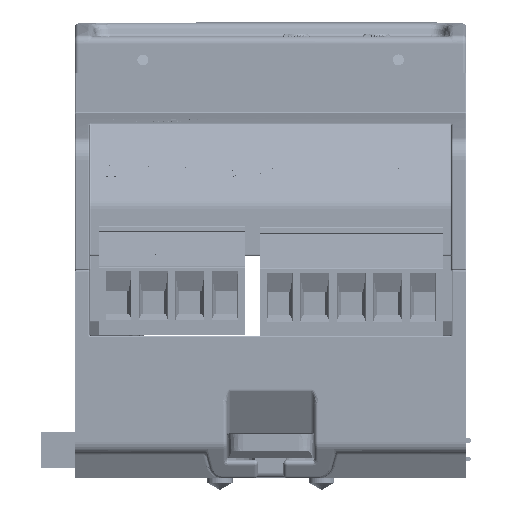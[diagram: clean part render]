
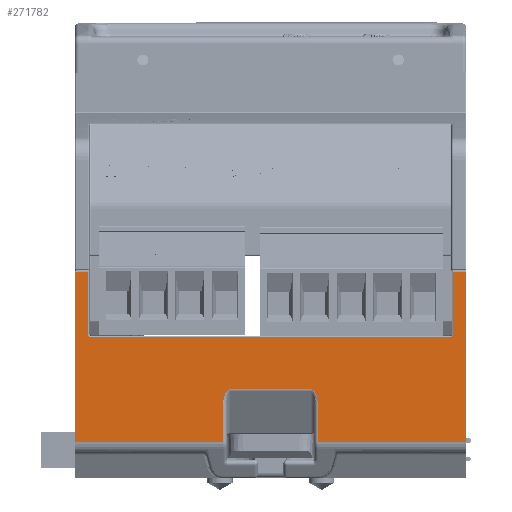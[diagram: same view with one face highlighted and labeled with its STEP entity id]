
A CAD part, front view. The second image highlights one B-rep face of the part: STEP entity #271782.
In plain terms, the highlighted planar face has unit normal (0, -1, 0).
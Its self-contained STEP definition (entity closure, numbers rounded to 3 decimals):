
#2768 = CARTESIAN_POINT ( 'NONE',  ( -25., -56., 0. ) ) ;
#4440 = EDGE_CURVE ( 'NONE', #201454, #41777, #177481, .T. ) ;
#4945 = CARTESIAN_POINT ( 'NONE',  ( -26.8, -56., -0.2 ) ) ;
#7142 = ORIENTED_EDGE ( 'NONE', *, *, #76550, .T. ) ;
#9804 = VERTEX_POINT ( 'NONE', #145446 ) ;
#15799 = CARTESIAN_POINT ( 'NONE',  ( -6.5, -56., -17.132 ) ) ;
#16784 = DIRECTION ( 'NONE',  ( 0., -1., 0. ) ) ;
#18787 = LINE ( 'NONE', #60000, #51401 ) ;
#19617 = ORIENTED_EDGE ( 'NONE', *, *, #231769, .T. ) ;
#24485 = DIRECTION ( 'NONE',  ( 0., -1., 0. ) ) ;
#30950 = CARTESIAN_POINT ( 'NONE',  ( -26.8, -56., -0.2 ) ) ;
#35280 = VERTEX_POINT ( 'NONE', #190024 ) ;
#39944 = LINE ( 'NONE', #163241, #206711 ) ;
#41489 = ORIENTED_EDGE ( 'NONE', *, *, #293359, .T. ) ;
#41777 = VERTEX_POINT ( 'NONE', #216508 ) ;
#45080 = ORIENTED_EDGE ( 'NONE', *, *, #125507, .F. ) ;
#48170 = EDGE_CURVE ( 'NONE', #35280, #196973, #130917, .T. ) ;
#51401 = VECTOR ( 'NONE', #85063, 1000. ) ;
#55870 = EDGE_CURVE ( 'NONE', #212189, #92963, #39944, .T. ) ;
#59032 = CARTESIAN_POINT ( 'NONE',  ( -5.5, -56., -16.304 ) ) ;
#60000 = CARTESIAN_POINT ( 'NONE',  ( 25., -56., 0. ) ) ;
#60025 = ORIENTED_EDGE ( 'NONE', *, *, #167213, .F. ) ;
#61849 = CARTESIAN_POINT ( 'NONE',  ( 6.086, -56., -16.304 ) ) ;
#62307 =( BOUNDED_CURVE ( )  B_SPLINE_CURVE ( 3, ( #261144, #61849, #319365, #138221 ),
 .UNSPECIFIED., .F., .F. ) 
 B_SPLINE_CURVE_WITH_KNOTS ( ( 4, 4 ),
 ( 0., 1.571 ),
 .UNSPECIFIED. ) 
 CURVE ( )  GEOMETRIC_REPRESENTATION_ITEM ( )  RATIONAL_B_SPLINE_CURVE ( ( 1., 0.805, 0.805, 1. ) ) 
 REPRESENTATION_ITEM ( '' )  );
#63412 = EDGE_CURVE ( 'NONE', #35280, #134893, #242842, .T. ) ;
#63873 = ORIENTED_EDGE ( 'NONE', *, *, #255497, .T. ) ;
#70207 = CARTESIAN_POINT ( 'NONE',  ( 5.5, -56., -16.304 ) ) ;
#74309 = VECTOR ( 'NONE', #110922, 1000. ) ;
#75944 = DIRECTION ( 'NONE',  ( 1., 0., 0. ) ) ;
#76550 = EDGE_CURVE ( 'NONE', #196973, #284781, #245461, .T. ) ;
#79460 = LINE ( 'NONE', #2768, #238523 ) ;
#79620 = EDGE_LOOP ( 'NONE', ( #63873, #266460, #163309, #214251, #7142, #291790, #274314, #216408, #183090, #183957, #19617, #155374, #269574, #45080, #41489, #60025 ) ) ;
#85063 = DIRECTION ( 'NONE',  ( 0., 0., -1. ) ) ;
#85602 = VERTEX_POINT ( 'NONE', #70207 ) ;
#92963 = VERTEX_POINT ( 'NONE', #167635 ) ;
#98364 = CARTESIAN_POINT ( 'NONE',  ( -25., -56., -8.8 ) ) ;
#102921 = DIRECTION ( 'NONE',  ( 0., 0., -1. ) ) ;
#106681 = DIRECTION ( 'NONE',  ( -1., 0., 0. ) ) ;
#108299 = VECTOR ( 'NONE', #112943, 1000. ) ;
#110922 = DIRECTION ( 'NONE',  ( 0., 0., 1. ) ) ;
#111817 = CARTESIAN_POINT ( 'NONE',  ( -5.5, -56., -16.304 ) ) ;
#112943 = DIRECTION ( 'NONE',  ( -1., 0., 0. ) ) ;
#118480 = VECTOR ( 'NONE', #214787, 1000. ) ;
#120589 = CARTESIAN_POINT ( 'NONE',  ( 26.8, -56., -0.2 ) ) ;
#122551 = CARTESIAN_POINT ( 'NONE',  ( -24.6, -56., -8.8 ) ) ;
#124860 = EDGE_CURVE ( 'NONE', #92963, #136943, #194649, .T. ) ;
#125507 = EDGE_CURVE ( 'NONE', #144577, #9804, #137248, .T. ) ;
#126843 = CARTESIAN_POINT ( 'NONE',  ( -6.5, -56., 0. ) ) ;
#130917 = LINE ( 'NONE', #256855, #330535 ) ;
#134371 = EDGE_CURVE ( 'NONE', #41777, #9804, #18787, .T. ) ;
#134893 = VERTEX_POINT ( 'NONE', #286247 ) ;
#136943 = VERTEX_POINT ( 'NONE', #303691 ) ;
#137248 = CIRCLE ( 'NONE', #320553, 0.4 ) ;
#138221 = CARTESIAN_POINT ( 'NONE',  ( 6.5, -56., -18.304 ) ) ;
#144577 = VERTEX_POINT ( 'NONE', #270663 ) ;
#145446 = CARTESIAN_POINT ( 'NONE',  ( 25., -56., -8.8 ) ) ;
#155374 = ORIENTED_EDGE ( 'NONE', *, *, #4440, .T. ) ;
#157292 = VECTOR ( 'NONE', #236908, 1000. ) ;
#158487 = DIRECTION ( 'NONE',  ( 0., 1., 0. ) ) ;
#160064 = CARTESIAN_POINT ( 'NONE',  ( -25., -56., -0.2 ) ) ;
#163241 = CARTESIAN_POINT ( 'NONE',  ( 6.5, -56., 0. ) ) ;
#163309 = ORIENTED_EDGE ( 'NONE', *, *, #63412, .F. ) ;
#163760 = VERTEX_POINT ( 'NONE', #219252 ) ;
#167213 = EDGE_CURVE ( 'NONE', #285580, #163760, #226601, .T. ) ;
#167635 = CARTESIAN_POINT ( 'NONE',  ( 6.5, -56., -23.574 ) ) ;
#177481 = LINE ( 'NONE', #30950, #157292 ) ;
#181383 = LINE ( 'NONE', #258051, #217889 ) ;
#183090 = ORIENTED_EDGE ( 'NONE', *, *, #55870, .T. ) ;
#183957 = ORIENTED_EDGE ( 'NONE', *, *, #124860, .T. ) ;
#190024 = CARTESIAN_POINT ( 'NONE',  ( -26.8, -56., -23.574 ) ) ;
#194649 = LINE ( 'NONE', #258087, #300612 ) ;
#196973 = VERTEX_POINT ( 'NONE', #261146 ) ;
#201454 = VERTEX_POINT ( 'NONE', #120589 ) ;
#201922 = LINE ( 'NONE', #4945, #108299 ) ;
#202112 = DIRECTION ( 'NONE',  ( 0., 0., -1. ) ) ;
#204553 = DIRECTION ( 'NONE',  ( 1., 0., 0. ) ) ;
#206711 = VECTOR ( 'NONE', #213228, 1000. ) ;
#210710 = CARTESIAN_POINT ( 'NONE',  ( -26.8, -56., 0. ) ) ;
#210835 = DIRECTION ( 'NONE',  ( 0., 0., 1. ) ) ;
#212189 = VERTEX_POINT ( 'NONE', #262479 ) ;
#213228 = DIRECTION ( 'NONE',  ( 0., 0., -1. ) ) ;
#214251 = ORIENTED_EDGE ( 'NONE', *, *, #48170, .T. ) ;
#214787 = DIRECTION ( 'NONE',  ( 1., 0., 0. ) ) ;
#216408 = ORIENTED_EDGE ( 'NONE', *, *, #251108, .T. ) ;
#216508 = CARTESIAN_POINT ( 'NONE',  ( 25., -56., -0.2 ) ) ;
#217889 = VECTOR ( 'NONE', #106681, 1000. ) ;
#219252 = CARTESIAN_POINT ( 'NONE',  ( -24.6, -56., -9.2 ) ) ;
#222570 = VECTOR ( 'NONE', #257029, 1000. ) ;
#226601 = CIRCLE ( 'NONE', #305943, 0.4 ) ;
#228774 = LINE ( 'NONE', #294714, #118480 ) ;
#231769 = EDGE_CURVE ( 'NONE', #136943, #201454, #292083, .T. ) ;
#232416 = PLANE ( 'NONE',  #328421 ) ;
#233733 = CARTESIAN_POINT ( 'NONE',  ( 24.6, -56., -8.8 ) ) ;
#234699 = CARTESIAN_POINT ( 'NONE',  ( -26.8, -56., 0. ) ) ;
#236908 = DIRECTION ( 'NONE',  ( -1., 0., 0. ) ) ;
#238523 = VECTOR ( 'NONE', #210835, 1000. ) ;
#242842 = LINE ( 'NONE', #210710, #275528 ) ;
#244237 = EDGE_CURVE ( 'NONE', #258341, #85602, #228774, .T. ) ;
#245461 = LINE ( 'NONE', #126843, #74309 ) ;
#246640 = VERTEX_POINT ( 'NONE', #160064 ) ;
#249529 =( BOUNDED_CURVE ( )  B_SPLINE_CURVE ( 3, ( #327759, #15799, #292478, #59032 ),
 .UNSPECIFIED., .F., .F. ) 
 B_SPLINE_CURVE_WITH_KNOTS ( ( 4, 4 ),
 ( 4.712, 6.283 ),
 .UNSPECIFIED. ) 
 CURVE ( )  GEOMETRIC_REPRESENTATION_ITEM ( )  RATIONAL_B_SPLINE_CURVE ( ( 1., 0.805, 0.805, 1. ) ) 
 REPRESENTATION_ITEM ( '' )  );
#251108 = EDGE_CURVE ( 'NONE', #85602, #212189, #62307, .T. ) ;
#255497 = EDGE_CURVE ( 'NONE', #285580, #246640, #79460, .T. ) ;
#256855 = CARTESIAN_POINT ( 'NONE',  ( -26.8, -56., -23.574 ) ) ;
#257029 = DIRECTION ( 'NONE',  ( 0., 0., 1. ) ) ;
#257541 = DIRECTION ( 'NONE',  ( 0., 0., -1. ) ) ;
#258051 = CARTESIAN_POINT ( 'NONE',  ( -24.8, -56., -9.2 ) ) ;
#258087 = CARTESIAN_POINT ( 'NONE',  ( -26.8, -56., -23.574 ) ) ;
#258341 = VERTEX_POINT ( 'NONE', #111817 ) ;
#258363 = EDGE_CURVE ( 'NONE', #246640, #134893, #201922, .T. ) ;
#261144 = CARTESIAN_POINT ( 'NONE',  ( 5.5, -56., -16.304 ) ) ;
#261146 = CARTESIAN_POINT ( 'NONE',  ( -6.5, -56., -23.574 ) ) ;
#262052 = DIRECTION ( 'NONE',  ( 0., 0., 1. ) ) ;
#262479 = CARTESIAN_POINT ( 'NONE',  ( 6.5, -56., -18.304 ) ) ;
#266460 = ORIENTED_EDGE ( 'NONE', *, *, #258363, .T. ) ;
#269574 = ORIENTED_EDGE ( 'NONE', *, *, #134371, .T. ) ;
#270663 = CARTESIAN_POINT ( 'NONE',  ( 24.6, -56., -9.2 ) ) ;
#271782 = ADVANCED_FACE ( 'NONE', ( #321562 ), #232416, .F. ) ;
#274314 = ORIENTED_EDGE ( 'NONE', *, *, #244237, .T. ) ;
#275528 = VECTOR ( 'NONE', #262052, 1000. ) ;
#283521 = CARTESIAN_POINT ( 'NONE',  ( -6.5, -56., -18.304 ) ) ;
#284781 = VERTEX_POINT ( 'NONE', #283521 ) ;
#285542 = CARTESIAN_POINT ( 'NONE',  ( 26.8, -56., 0. ) ) ;
#285580 = VERTEX_POINT ( 'NONE', #98364 ) ;
#286247 = CARTESIAN_POINT ( 'NONE',  ( -26.8, -56., -0.2 ) ) ;
#291790 = ORIENTED_EDGE ( 'NONE', *, *, #335977, .T. ) ;
#292083 = LINE ( 'NONE', #285542, #222570 ) ;
#292478 = CARTESIAN_POINT ( 'NONE',  ( -6.086, -56., -16.304 ) ) ;
#293359 = EDGE_CURVE ( 'NONE', #144577, #163760, #181383, .T. ) ;
#294714 = CARTESIAN_POINT ( 'NONE',  ( -26.8, -56., -16.304 ) ) ;
#300612 = VECTOR ( 'NONE', #204553, 1000. ) ;
#303691 = CARTESIAN_POINT ( 'NONE',  ( 26.8, -56., -23.574 ) ) ;
#305943 = AXIS2_PLACEMENT_3D ( 'NONE', #122551, #16784, #202112 ) ;
#319365 = CARTESIAN_POINT ( 'NONE',  ( 6.5, -56., -17.132 ) ) ;
#320553 = AXIS2_PLACEMENT_3D ( 'NONE', #233733, #24485, #102921 ) ;
#321562 = FACE_OUTER_BOUND ( 'NONE', #79620, .T. ) ;
#327759 = CARTESIAN_POINT ( 'NONE',  ( -6.5, -56., -18.304 ) ) ;
#328421 = AXIS2_PLACEMENT_3D ( 'NONE', #234699, #158487, #257541 ) ;
#330535 = VECTOR ( 'NONE', #75944, 1000. ) ;
#335977 = EDGE_CURVE ( 'NONE', #284781, #258341, #249529, .T. ) ;
